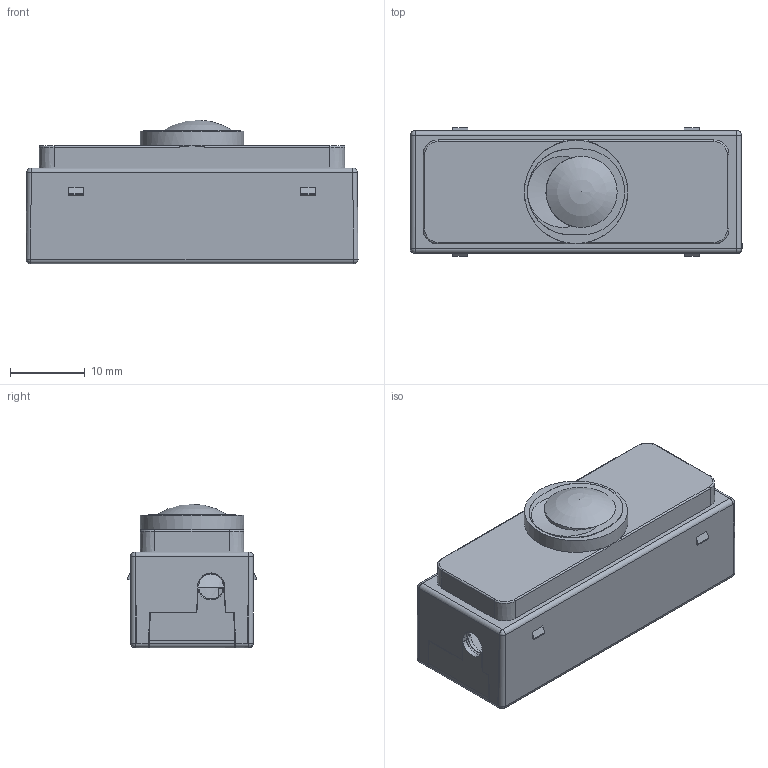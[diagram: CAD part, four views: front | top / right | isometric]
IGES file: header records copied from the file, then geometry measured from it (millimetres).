
Global section: file name: No Iges File Name specified; native system: Autodesk Inventor 2012; preprocessor: AutoDesk Inventor Iges Exporter R2012; author: Arbeitsplatz 03; date: 20160131.190604; units: millimetre
Bounding box: 44.39 x 17.2 x 19.19 mm (x, y, z)
Volume: 6736.6 mm3; surface area: 9608.4 mm2
Topology: 1 solids, 1 shells, 492 faces, 1378 edges, 868 vertices
Faces by surface type: plane 350, cylinder 61, revolution 40, cone 14, sphere 13, torus 8, bspline 6
Full cylindrical faces by diameter (mm): 0.45 x3, 1 x1, 1.2 x1, 4.7 x2, 9.7 x1
